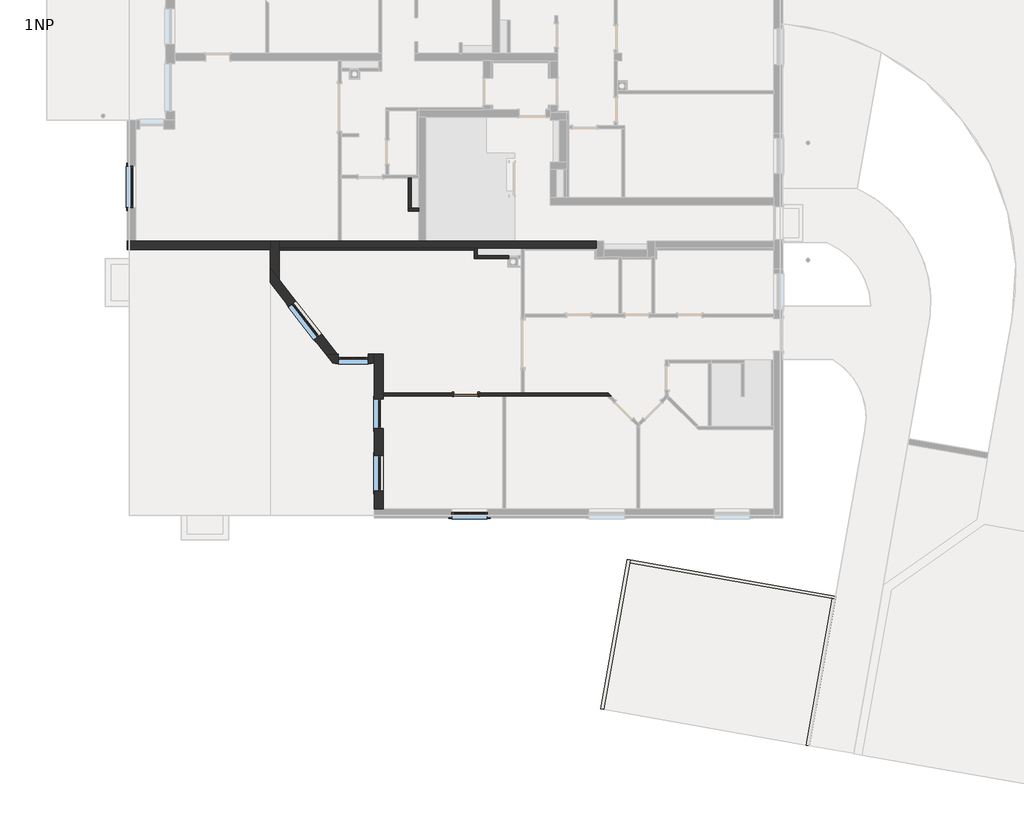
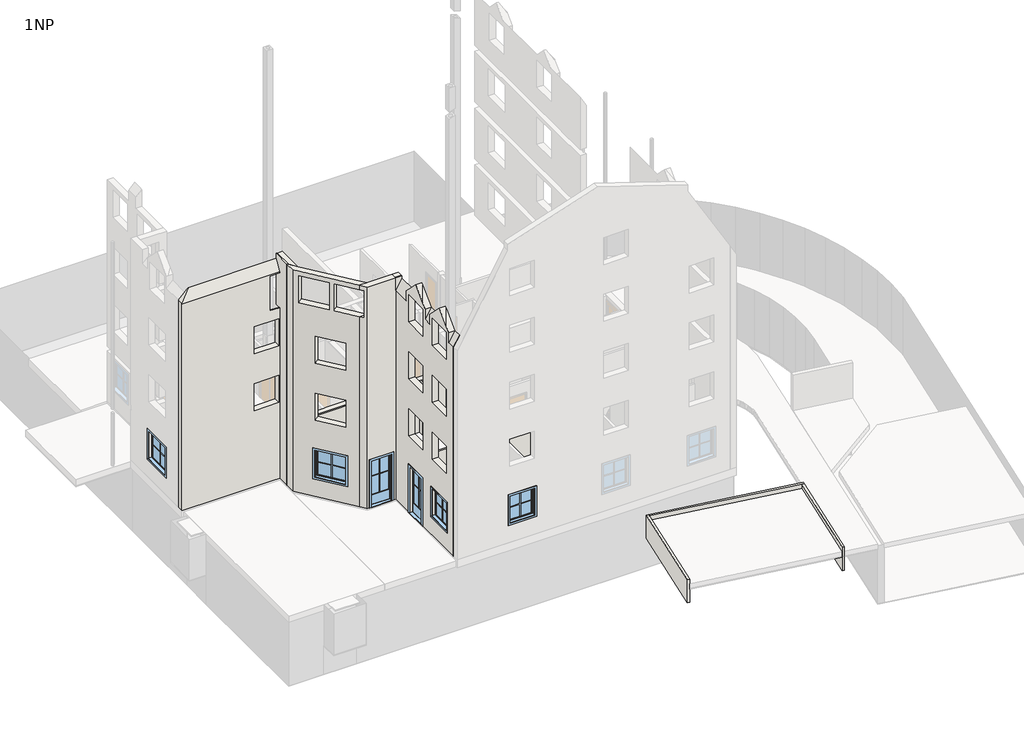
# One storey, part 1 of 7: 15 walls, 6 windows, 1 door.
"""IFC4 building model written with IfcOpenShell, lengths in millimetres."""

from ifc_helpers import new_model, si_unit, frame, origin, origin_with_axes, place, context, project, spatial, polyline, outline, extrude, faceted_brep, transform, mapped, element, save
from components import sd_800x2000_80f4ff25, standard_window_with_mullions_d3525f46, standard_window_with_mullions_80486b60, window_2_30278724

model = new_model("IFC4")

# Units and contexts
model_context = context("Model", 3, world=origin())
ifc_project = project(units=[si_unit("LENGTHUNIT", "METRE", prefix="MILLI")], contexts=[model_context])

# Site, building, storey
site = spatial("IfcSite", under=ifc_project)
building = spatial("IfcBuilding", under=site)
storey = spatial("IfcBuildingStorey", under=building, Name="1NP", Elevation=0.0)

# Door
placement = place(None, origin())
sd_800x2000_shape = sd_800x2000_80f4ff25(model_context)
element("IfcDoor", 1, ObjectType="JednokridlePlne : SD 800x2000", at=placement, inside=storey, context=model_context, shape_type="MappedRepresentation", body=[
    mapped(sd_800x2000_shape, transform((-1270.9247504, -6982.3709459, 0.0), x_axis=(-1.0, 0.0, 0.0), y_axis=(0.0, -1.0, 0.0), z_axis=(0.0, 0.0, 1.0))),
])

# Walls
element("IfcWall", 2, ObjectType="Exterior - 250+50mm", at=placement, inside=storey, context=model_context, shape_type="Brep", body=[
    faceted_brep([(-4037.1962165, -5932.3709459, 11480.0), (-4037.1962165, -5932.3709459, 11351.5524478), (-4037.1962165, -6832.3709452, 11351.5524478), (-4037.1962165, -6833.9233929, 11351.5524478), (-4037.1962165, -7553.9233929, 12071.5524478), (-4037.1962165, -7632.3709452, 12150.0), (-4037.1962165, -7710.8184974, 12071.5524478), (-4037.1962165, -8430.8184974, 11351.5524478), (-4037.1962165, -8432.3709452, 11351.5524478), (-4037.1962165, -8832.3709452, 11351.5524478), (-4037.1962165, -8833.9233929, 11351.5524478), (-4037.1962165, -9553.9233929, 12071.5524478), (-4037.1962165, -9632.3709452, 12150.0), (-4037.1962165, -9710.8184974, 12071.5524478), (-4037.1962165, -10430.8184974, 11351.5524478), (-4037.1962165, -10432.3709452, 11351.5524478), (-4037.1962165, -10832.3709459, 11351.5524478), (-4037.1962165, -10832.3709459, 8850.0), (-4037.1962165, -6782.3709459, 8850.0), (-4037.1962165, -6682.3709459, 8850.0), (-4037.1962165, -5632.3709459, 8850.0), (-4037.1962165, -5632.3709459, 11480.0), (-4037.1962165, -5882.3709459, 11480.0), (-4037.1962165, -10232.3709452, 9850.0), (-4037.1962165, -10232.3709452, 11250.0), (-4037.1962165, -9032.3709452, 11250.0), (-4037.1962165, -9032.3709452, 9850.0), (-4037.1962165, -8232.3709452, 9850.0), (-4037.1962165, -8232.3709452, 11250.0), (-4037.1962165, -7032.3709452, 11250.0), (-4037.1962165, -7032.3709452, 9850.0), (-4037.1962165, -7132.3709422, 2400.0), (-4037.1962165, -7132.3709422, 0.0), (-4037.1962165, -7032.3709459, 0.0), (-4037.1962165, -6932.3709459, 0.0), (-4037.1962165, -5632.3709459, 0.0), (-4037.1962165, -5632.3709459, 2630.0), (-4037.1962165, -6932.3709459, 2630.0), (-4037.1962165, -7032.3709459, 2630.0), (-4037.1962165, -10832.3709459, 2630.0), (-4037.1962165, -10832.3709459, 0.0), (-4037.1962165, -8132.3709422, 0.0), (-4037.1962165, -8132.3709422, 2400.0), (-4037.1962165, -10232.3709452, 1000.0), (-4037.1962165, -10232.3709452, 2400.0), (-4037.1962165, -9032.3709452, 2400.0), (-4037.1962165, -9032.3709452, 1000.0), (-4037.1962165, -10832.3709459, 2950.0), (-4037.1962165, -5732.3709459, 2950.0), (-4037.1962165, -5632.3709459, 2950.0), (-4037.1962165, -5632.3709459, 5580.0), (-4037.1962165, -5732.3709459, 5580.0), (-4037.1962165, -10832.3709459, 5580.0), (-4037.1962165, -10232.3709452, 3950.0), (-4037.1962165, -10232.3709452, 5350.0), (-4037.1962165, -9032.3709452, 5350.0), (-4037.1962165, -9032.3709452, 3950.0), (-4037.1962165, -8232.3709452, 3950.0), (-4037.1962165, -8232.3709452, 5350.0), (-4037.1962165, -7032.3709452, 5350.0), (-4037.1962165, -7032.3709452, 3950.0), (-4037.1962165, -10832.3709459, 5900.0), (-4037.1962165, -5732.3709459, 5900.0), (-4037.1962165, -5632.3709459, 5900.0), (-4037.1962165, -5632.3709459, 8530.0), (-4037.1962165, -5732.3709459, 8530.0), (-4037.1962165, -10832.3709459, 8530.0), (-4037.1962165, -10232.3709452, 6900.0), (-4037.1962165, -10232.3709452, 8300.0), (-4037.1962165, -9032.3709452, 8300.0), (-4037.1962165, -9032.3709452, 6900.0), (-4037.1962165, -8232.3709452, 6900.0), (-4037.1962165, -8232.3709452, 8300.0), (-4037.1962165, -7032.3709452, 8300.0), (-4037.1962165, -7032.3709452, 6900.0), (-4337.1962165, -10832.3709459, 0.0), (-4337.1962165, -10832.3709459, 10831.9372055), (-4337.1962165, -10432.3709452, 10831.9372055), (-4337.1962165, -10432.3709452, 11350.0), (-4337.1962165, -10230.4337397, 11551.9372055), (-4337.1962165, -9632.3709452, 12150.0), (-4337.1962165, -9034.3081507, 11551.9372055), (-4337.1962165, -8832.3709452, 11350.0), (-4337.1962165, -8832.3709452, 10831.9372055), (-4337.1962165, -8432.3709452, 10831.9372055), (-4337.1962165, -8432.3709452, 11350.0), (-4337.1962165, -8230.4337397, 11551.9372055), (-4337.1962165, -7632.3709452, 12150.0), (-4337.1962165, -7034.3081507, 11551.9372055), (-4337.1962165, -6832.3709452, 11350.0), (-4337.1962165, -6832.3709452, 10831.9372055), (-4337.1962165, -5932.3709459, 10831.9372055), (-4337.1962165, -5932.3709459, 11480.0), (-4337.1962165, -5882.3709459, 11480.0), (-4337.1962165, -5632.3709459, 11480.0), (-4337.1962165, -5632.3709459, 8850.0), (-4337.1962165, -5882.3709459, 8850.0), (-4337.1962165, -5882.3709459, 8530.0), (-4337.1962165, -5632.3709459, 8530.0), (-4337.1962165, -5632.3709459, 5900.0), (-4337.1962165, -5882.3709459, 5900.0), (-4337.1962165, -5882.3709459, 5580.0), (-4337.1962165, -5632.3709459, 5580.0), (-4337.1962165, -5632.3709459, 2950.0), (-4337.1962165, -5882.3709459, 2950.0), (-4337.1962165, -5882.3709459, 2630.0), (-4337.1962165, -5632.3709459, 2630.0), (-4337.1962165, -5632.3709459, 0.0), (-4337.1962165, -5932.3709459, 0.0), (-4337.1962165, -7132.3709422, 0.0), (-4337.1962165, -7132.3709422, 2400.0), (-4337.1962165, -8132.3709422, 2400.0), (-4337.1962165, -8132.3709422, 0.0), (-4337.1962165, -10232.3709452, 2400.0), (-4337.1962165, -10232.3709452, 1000.0), (-4337.1962165, -9032.3709452, 1000.0), (-4337.1962165, -9032.3709452, 2400.0), (-4337.1962165, -10232.3709452, 5350.0), (-4337.1962165, -10232.3709452, 3950.0), (-4337.1962165, -9032.3709452, 3950.0), (-4337.1962165, -9032.3709452, 5350.0), (-4337.1962165, -8232.3709452, 5350.0), (-4337.1962165, -8232.3709452, 3950.0), (-4337.1962165, -7032.3709452, 3950.0), (-4337.1962165, -7032.3709452, 5350.0), (-4337.1962165, -10232.3709452, 8300.0), (-4337.1962165, -10232.3709452, 6900.0), (-4337.1962165, -9032.3709452, 6900.0), (-4337.1962165, -9032.3709452, 8300.0), (-4337.1962165, -8232.3709452, 8300.0), (-4337.1962165, -8232.3709452, 6900.0), (-4337.1962165, -7032.3709452, 6900.0), (-4337.1962165, -7032.3709452, 8300.0), (-4337.1962165, -10232.3709452, 11250.0), (-4337.1962165, -10232.3709452, 9850.0), (-4337.1962165, -9032.3709452, 9850.0), (-4337.1962165, -9032.3709452, 11250.0), (-4337.1962165, -8232.3709452, 11250.0), (-4337.1962165, -8232.3709452, 9850.0), (-4337.1962165, -7032.3709452, 9850.0), (-4337.1962165, -7032.3709452, 11250.0), (-4287.1962165, -10832.3709459, 2630.0), (-4287.1962165, -10832.3709459, 2950.0), (-4287.1962165, -10832.3709459, 5580.0), (-4287.1962165, -10832.3709459, 5900.0), (-4287.1962165, -10832.3709459, 8530.0), (-4287.1962165, -10832.3709459, 8850.0), (-4038.0925227, -10432.3709452, 11350.0), (-4038.0925227, -8832.3709452, 11350.0), (-4038.0925227, -8432.3709452, 11350.0), (-4038.0925227, -6832.3709452, 11350.0), (-4287.1962165, -5882.3709459, 2630.0), (-4287.1962165, -5882.3709459, 2950.0), (-4287.1962165, -5882.3709459, 5580.0), (-4287.1962165, -5882.3709459, 5900.0), (-4287.1962165, -5882.3709459, 8530.0), (-4287.1962165, -5882.3709459, 8850.0)], [[[0, 1, 2, 3, 4, 5, 6, 7, 8, 9, 10, 11, 12, 13, 14, 15, 16, 17, 18, 19, 20, 21, 22], [23, 24, 25, 26], [27, 28, 29, 30]], [[31, 32, 33, 34, 35, 36, 37, 38, 39, 40, 41, 42], [43, 44, 45, 46]], [[47, 48, 49, 50, 51, 52], [53, 54, 55, 56], [57, 58, 59, 60]], [[61, 62, 63, 64, 65, 66], [67, 68, 69, 70], [71, 72, 73, 74]], [[75, 76, 77, 78, 79, 80, 81, 82, 83, 84, 85, 86, 87, 88, 89, 90, 91, 92, 93, 94, 95, 96, 97, 98, 99, 100, 101, 102, 103, 104, 105, 106, 107, 108, 109, 110, 111, 112], [113, 114, 115, 116], [117, 118, 119, 120], [121, 122, 123, 124], [125, 126, 127, 128], [129, 130, 131, 132], [133, 134, 135, 136], [137, 138, 139, 140]], [[107, 35, 34, 33, 32, 109, 108]], [[40, 75, 112, 41]], [[35, 107, 106, 36]], [[94, 21, 20, 95]], [[49, 103, 102, 50]], [[63, 99, 98, 64]], [[16, 76, 75, 40, 39, 141, 142, 47, 52, 143, 144, 61, 66, 145, 146, 17]], [[1, 0, 92, 91]], [[78, 77, 147]], [[83, 82, 148]], [[85, 84, 149]], [[90, 89, 150]], [[92, 0, 22, 93]], [[2, 1, 91, 90, 150, 3]], [[82, 81, 11, 10, 148]], [[79, 78, 147, 14, 13]], [[89, 88, 4, 3, 150]], [[86, 85, 149, 7, 6]], [[84, 83, 148, 10, 9, 8, 7, 149]], [[76, 16, 15, 14, 147, 77]], [[6, 5, 87, 86]], [[5, 4, 88, 87]], [[13, 12, 80, 79]], [[12, 11, 81, 80]], [[22, 21, 94, 93]], [[44, 43, 114, 113]], [[45, 44, 113, 116]], [[46, 45, 116, 115]], [[43, 46, 115, 114]], [[110, 109, 32, 31]], [[111, 110, 31, 42]], [[112, 111, 42, 41]], [[54, 53, 118, 117]], [[55, 54, 117, 120]], [[56, 55, 120, 119]], [[53, 56, 119, 118]], [[58, 57, 122, 121]], [[59, 58, 121, 124]], [[60, 59, 124, 123]], [[57, 60, 123, 122]], [[68, 67, 126, 125]], [[69, 68, 125, 128]], [[70, 69, 128, 127]], [[67, 70, 127, 126]], [[72, 71, 130, 129]], [[73, 72, 129, 132]], [[74, 73, 132, 131]], [[71, 74, 131, 130]], [[24, 23, 134, 133]], [[25, 24, 133, 136]], [[26, 25, 136, 135]], [[23, 26, 135, 134]], [[28, 27, 138, 137]], [[29, 28, 137, 140]], [[30, 29, 140, 139]], [[27, 30, 139, 138]], [[105, 151, 141, 39, 38, 37, 36, 106]], [[142, 152, 104, 103, 49, 48, 47]], [[151, 152, 142, 141]], [[152, 151, 105, 104]], [[101, 153, 143, 52, 51, 50, 102]], [[144, 154, 100, 99, 63, 62, 61]], [[153, 154, 144, 143]], [[154, 153, 101, 100]], [[97, 155, 145, 66, 65, 64, 98]], [[146, 156, 96, 95, 20, 19, 18, 17]], [[155, 156, 146, 145]], [[156, 155, 97, 96]]]),
])
element("IfcWall", 3, ObjectType="Exterior - 250+50mm", at=placement, inside=storey, context=model_context, shape_type="Brep", body=[
    faceted_brep([(-5550.4710748, -5632.3709459, 2400.0), (-5550.4710748, -5632.3709459, 0.0), (-5590.4710748, -5632.3709459, 0.0), (-5970.5295499, -5632.3709459, 0.0), (-5970.5295499, -5632.3709459, 9850.0), (-5590.4710748, -5632.3709459, 9850.0), (-5590.4710748, -5632.3709459, 11250.0), (-5970.5295499, -5632.3709459, 11250.0), (-5970.5295499, -5632.3709459, 11480.0), (-5907.1864707, -5632.3709459, 11480.0), (-5590.4710748, -5632.3709459, 11480.0), (-4337.1962165, -5632.3709459, 11480.0), (-4337.1962165, -5632.3709459, 8850.0), (-5590.4710748, -5632.3709459, 8850.0), (-5907.1864707, -5632.3709459, 8850.0), (-5907.1864707, -5632.3709459, 8530.0), (-5590.4710748, -5632.3709459, 8530.0), (-4337.1962165, -5632.3709459, 8530.0), (-4337.1962165, -5632.3709459, 5900.0), (-5590.4710748, -5632.3709459, 5900.0), (-5907.1864707, -5632.3709459, 5900.0), (-5907.1864707, -5632.3709459, 5580.0), (-5590.4710748, -5632.3709459, 5580.0), (-4337.1962165, -5632.3709459, 5580.0), (-4337.1962165, -5632.3709459, 2950.0), (-5590.4710748, -5632.3709459, 2950.0), (-5907.1864707, -5632.3709459, 2950.0), (-5907.1864707, -5632.3709459, 2630.0), (-5590.4710748, -5632.3709459, 2630.0), (-4337.1962165, -5632.3709459, 2630.0), (-4337.1962165, -5632.3709459, 0.0), (-4550.4710748, -5632.3709459, 0.0), (-4550.4710748, -5632.3709459, 2400.0), (-4337.1962165, -5932.3709459, 11480.0), (-5737.1962165, -5932.3709459, 11480.0), (-5737.1962165, -5932.3709459, 0.0), (-5550.4710748, -5932.3709459, 0.0), (-5550.4710748, -5932.3709459, 2400.0), (-4550.4710748, -5932.3709459, 2400.0), (-4550.4710748, -5932.3709459, 0.0), (-4337.1962165, -5932.3709459, 0.0), (-4337.1962165, -5932.3709459, 10831.9372055), (-4337.1962165, -5882.3709459, 11480.0), (-5827.27674, -5816.55313, 11250.0), (-5827.27674, -5816.55313, 9850.0), (-4337.1962165, -5882.3709459, 2630.0), (-4337.1962165, -5882.3709459, 2950.0), (-4337.1962165, -5882.3709459, 5580.0), (-4337.1962165, -5882.3709459, 5900.0), (-4337.1962165, -5882.3709459, 8530.0), (-4337.1962165, -5882.3709459, 8850.0), (-5712.7420262, -5882.3709459, 2630.0), (-5712.7420262, -5882.3709459, 2950.0), (-5712.7420262, -5882.3709459, 5580.0), (-5712.7420262, -5882.3709459, 5900.0), (-5712.7420262, -5882.3709459, 8530.0), (-5712.7420262, -5882.3709459, 8850.0)], [[[0, 1, 2, 3, 4, 5, 6, 7, 8, 9, 10, 11, 12, 13, 14, 15, 16, 17, 18, 19, 20, 21, 22, 23, 24, 25, 26, 27, 28, 29, 30, 31, 32]], [[33, 34, 35, 36, 37, 38, 39, 40, 41]], [[35, 3, 2, 1, 36]], [[30, 40, 39, 31]], [[34, 33, 42, 11, 10, 9, 8]], [[3, 35, 34, 8, 7, 43, 44, 4]], [[33, 41, 40, 30, 29, 45, 46, 24, 23, 47, 48, 18, 17, 49, 50, 12, 11, 42]], [[37, 36, 1, 0]], [[38, 37, 0, 32]], [[39, 38, 32, 31]], [[5, 44, 43, 6]], [[6, 43, 7]], [[44, 5, 4]], [[27, 51, 45, 29, 28]], [[46, 52, 26, 25, 24]], [[51, 52, 46, 45]], [[52, 51, 27, 26]], [[21, 53, 47, 23, 22]], [[48, 54, 20, 19, 18]], [[53, 54, 48, 47]], [[54, 53, 21, 20]], [[15, 55, 49, 17, 16]], [[50, 56, 14, 13, 12]], [[55, 56, 50, 49]], [[56, 55, 15, 14]]]),
])
element("IfcWall", 4, ObjectType="Exterior - 250+50mm", at=placement, inside=storey, context=model_context, shape_type="Brep", body=[
    faceted_brep([(-5590.4710748, -5632.3709459, 0.0), (-7537.1962165, -3129.4386209, 0.0), (-7837.1962165, -2743.7243352, 0.0), (-7837.1962165, -2743.7243352, 11480.0), (-7787.1962165, -2808.0100494, 11480.0), (-7537.1962165, -3129.4386209, 11480.0), (-5590.4710748, -5632.3709459, 11480.0), (-5590.4710748, -5632.3709459, 11250.0), (-6449.9879338, -4527.2778416, 11250.0), (-6449.9879338, -4527.2778416, 9850.0), (-5590.4710748, -5632.3709459, 9850.0), (-5590.4710748, -5632.3709459, 8850.0), (-7537.1962165, -3129.4386209, 8850.0), (-7787.1962165, -2808.0100494, 8850.0), (-7787.1962165, -2808.0100494, 8530.0), (-7537.1962165, -3129.4386209, 8530.0), (-5590.4710748, -5632.3709459, 8530.0), (-5590.4710748, -5632.3709459, 5900.0), (-7537.1962165, -3129.4386209, 5900.0), (-7787.1962165, -2808.0100494, 5900.0), (-7787.1962165, -2808.0100494, 5580.0), (-7537.1962165, -3129.4386209, 5580.0), (-5590.4710748, -5632.3709459, 5580.0), (-5590.4710748, -5632.3709459, 2950.0), (-7537.1962165, -3129.4386209, 2950.0), (-7787.1962165, -2808.0100494, 2950.0), (-7787.1962165, -2808.0100494, 2630.0), (-7537.1962165, -3129.4386209, 2630.0), (-5590.4710748, -5632.3709459, 2630.0), (-6111.3619969, -4962.6540461, 1000.0), (-6111.3619969, -4962.6540461, 2400.0), (-6970.8788558, -3857.5609418, 2400.0), (-6970.8788558, -3857.5609418, 1000.0), (-6111.3619969, -4962.6540461, 3950.0), (-6111.3619969, -4962.6540461, 5350.0), (-6970.8788558, -3857.5609418, 5350.0), (-6970.8788558, -3857.5609418, 3950.0), (-6111.3619969, -4962.6540461, 6900.0), (-6111.3619969, -4962.6540461, 8300.0), (-6970.8788558, -3857.5609418, 8300.0), (-6970.8788558, -3857.5609418, 6900.0), (-6576.7507807, -4364.2970383, 9850.0), (-6576.7507807, -4364.2970383, 11250.0), (-7436.2676396, -3259.203934, 11250.0), (-7436.2676396, -3259.203934, 9850.0), (-7837.1962165, -3232.3709459, 0.0), (-5970.5295499, -5632.3709459, 0.0), (-5970.5295499, -5632.3709459, 9850.0), (-6686.793599, -4711.4600256, 9850.0), (-6686.793599, -4711.4600256, 11250.0), (-5970.5295499, -5632.3709459, 11250.0), (-5970.5295499, -5632.3709459, 11480.0), (-7837.1962165, -3232.3709459, 11480.0), (-6348.1676621, -5146.8362301, 2400.0), (-6348.1676621, -5146.8362301, 1000.0), (-7207.6845211, -4041.7431258, 1000.0), (-7207.6845211, -4041.7431258, 2400.0), (-6348.1676621, -5146.8362301, 5350.0), (-6348.1676621, -5146.8362301, 3950.0), (-7207.6845211, -4041.7431258, 3950.0), (-7207.6845211, -4041.7431258, 5350.0), (-6348.1676621, -5146.8362301, 8300.0), (-6348.1676621, -5146.8362301, 6900.0), (-7207.6845211, -4041.7431258, 6900.0), (-7207.6845211, -4041.7431258, 8300.0), (-6813.5564459, -4548.4792224, 11250.0), (-6813.5564459, -4548.4792224, 9850.0), (-7673.0733049, -3443.3861181, 9850.0), (-7673.0733049, -3443.3861181, 11250.0), (-5907.1864707, -5632.3709459, 11480.0), (-5907.1864707, -5632.3709459, 2630.0), (-5907.1864707, -5632.3709459, 2950.0), (-5907.1864707, -5632.3709459, 5580.0), (-5907.1864707, -5632.3709459, 5900.0), (-5907.1864707, -5632.3709459, 8530.0), (-5907.1864707, -5632.3709459, 8850.0), (-7787.1962165, -3215.2155584, 2630.0), (-7787.1962165, -3215.2155584, 2950.0), (-7787.1962165, -3215.2155584, 5580.0), (-7787.1962165, -3215.2155584, 5900.0), (-7787.1962165, -3215.2155584, 8530.0), (-7787.1962165, -3215.2155584, 8850.0)], [[[0, 1, 2, 3, 4, 5, 6, 7, 8, 9, 10, 11, 12, 13, 14, 15, 16, 17, 18, 19, 20, 21, 22, 23, 24, 25, 26, 27, 28], [29, 30, 31, 32], [33, 34, 35, 36], [37, 38, 39, 40], [41, 42, 43, 44]], [[45, 46, 47, 48, 49, 50, 51, 52], [53, 54, 55, 56], [57, 58, 59, 60], [61, 62, 63, 64], [65, 66, 67, 68]], [[2, 1, 0, 46, 45]], [[52, 51, 69, 6, 5, 4, 3]], [[3, 2, 45, 52]], [[46, 0, 28, 70, 71, 23, 22, 72, 73, 17, 16, 74, 75, 11, 10, 47]], [[7, 6, 69, 51, 50]], [[30, 29, 54, 53]], [[31, 30, 53, 56]], [[32, 31, 56, 55]], [[29, 32, 55, 54]], [[34, 33, 58, 57]], [[35, 34, 57, 60]], [[36, 35, 60, 59]], [[33, 36, 59, 58]], [[38, 37, 62, 61]], [[39, 38, 61, 64]], [[40, 39, 64, 63]], [[37, 40, 63, 62]], [[42, 41, 66, 65]], [[43, 42, 65, 68]], [[44, 43, 68, 67]], [[41, 44, 67, 66]], [[49, 8, 7, 50]], [[8, 49, 48, 9]], [[9, 48, 47, 10]], [[26, 76, 70, 28, 27]], [[71, 77, 25, 24, 23]], [[76, 77, 71, 70]], [[77, 76, 26, 25]], [[20, 78, 72, 22, 21]], [[73, 79, 19, 18, 17]], [[78, 79, 73, 72]], [[79, 78, 20, 19]], [[14, 80, 74, 16, 15]], [[75, 81, 13, 12, 11]], [[80, 81, 75, 74]], [[81, 80, 14, 13]]]),
])
element("IfcWall", 5, ObjectType="Exterior - 250+50mm", at=placement, inside=storey, context=model_context, shape_type="Brep", body=[
    faceted_brep([(-7537.1962165, -3129.4386209, 0.0), (-7537.1962165, -2147.3709459, 0.0), (-7537.1962165, -2082.3709459, 0.0), (-7537.1962165, -1832.3709459, 0.0), (-7537.1962165, -1832.3709459, 2630.0), (-7537.1962165, -2082.3709459, 2630.0), (-7537.1962165, -2147.3709459, 2630.0), (-7537.1962165, -3129.4386209, 2630.0), (-7537.1962165, -1832.3709459, 11480.0), (-7537.1962165, -2082.3709459, 11480.0), (-7537.1962165, -2147.3709459, 11480.0), (-7537.1962165, -3129.4386209, 11480.0), (-7537.1962165, -3129.4386209, 8850.0), (-7537.1962165, -2147.3709459, 8850.0), (-7537.1962165, -2082.3709459, 8850.0), (-7537.1962165, -1832.3709459, 8850.0), (-7537.1962165, -3129.4386209, 2950.0), (-7537.1962165, -2147.3709459, 2950.0), (-7537.1962165, -2082.3709459, 2950.0), (-7537.1962165, -1832.3709459, 2950.0), (-7537.1962165, -1832.3709459, 5580.0), (-7537.1962165, -2082.3709459, 5580.0), (-7537.1962165, -2147.3709459, 5580.0), (-7537.1962165, -3129.4386209, 5580.0), (-7537.1962165, -3129.4386209, 5900.0), (-7537.1962165, -2147.3709459, 5900.0), (-7537.1962165, -2082.3709459, 5900.0), (-7537.1962165, -1832.3709459, 5900.0), (-7537.1962165, -1832.3709459, 8530.0), (-7537.1962165, -2082.3709459, 8530.0), (-7537.1962165, -2147.3709459, 8530.0), (-7537.1962165, -3129.4386209, 8530.0), (-7837.1962165, -1832.3709459, 0.0), (-7837.1962165, -2132.3709459, 0.0), (-7837.1962165, -2743.7243352, 0.0), (-7837.1962165, -2743.7243352, 11480.0), (-7837.1962165, -1832.3709459, 11480.0), (-7837.1962165, -1832.3709459, 11223.7295446), (-7837.1962165, -1832.3709459, 10650.0), (-7837.1962165, -1832.3709459, 8850.0), (-7837.1962165, -2082.3709459, 8850.0), (-7837.1962165, -2082.3709459, 8530.0), (-7837.1962165, -1832.3709459, 8530.0), (-7837.1962165, -1832.3709459, 5900.0), (-7837.1962165, -2082.3709459, 5900.0), (-7837.1962165, -2082.3709459, 5580.0), (-7837.1962165, -1832.3709459, 5580.0), (-7837.1962165, -1832.3709459, 2950.0), (-7837.1962165, -2082.3709459, 2950.0), (-7837.1962165, -2082.3709459, 2630.0), (-7837.1962165, -1832.3709459, 2630.0), (-7787.1962165, -1832.3709459, 11480.0), (-7787.1962165, -2808.0100494, 2630.0), (-7787.1962165, -2808.0100494, 2950.0), (-7787.1962165, -2808.0100494, 5580.0), (-7787.1962165, -2808.0100494, 5900.0), (-7787.1962165, -2808.0100494, 8530.0), (-7787.1962165, -2808.0100494, 8850.0), (-7787.1962165, -2808.0100494, 11480.0), (-7787.1962165, -2082.3709459, 2630.0), (-7787.1962165, -2082.3709459, 2950.0), (-7787.1962165, -2082.3709459, 5580.0), (-7787.1962165, -2082.3709459, 5900.0), (-7787.1962165, -2082.3709459, 8530.0), (-7787.1962165, -2082.3709459, 8850.0)], [[[0, 1, 2, 3, 4, 5, 6, 7]], [[8, 9, 10, 11, 12, 13, 14, 15]], [[16, 17, 18, 19, 20, 21, 22, 23]], [[24, 25, 26, 27, 28, 29, 30, 31]], [[32, 33, 34, 35, 36, 37, 38, 39, 40, 41, 42, 43, 44, 45, 46, 47, 48, 49, 50]], [[3, 2, 1, 0, 34, 33, 32]], [[3, 32, 50, 4]], [[51, 8, 15, 39, 38, 37, 36]], [[19, 47, 46, 20]], [[27, 43, 42, 28]], [[35, 34, 0, 7, 52, 53, 16, 23, 54, 55, 24, 31, 56, 57, 12, 11, 58]], [[36, 35, 58, 51]], [[11, 10, 9, 8, 51, 58]], [[49, 59, 52, 7, 6, 5, 4, 50]], [[53, 60, 48, 47, 19, 18, 17, 16]], [[59, 60, 53, 52]], [[60, 59, 49, 48]], [[45, 61, 54, 23, 22, 21, 20, 46]], [[55, 62, 44, 43, 27, 26, 25, 24]], [[61, 62, 55, 54]], [[62, 61, 45, 44]], [[41, 63, 56, 31, 30, 29, 28, 42]], [[57, 64, 40, 39, 15, 14, 13, 12]], [[63, 64, 57, 56]], [[64, 63, 41, 40]]]),
])
element("IfcWall", 6, ObjectType="Exterior - 250+50mm", at=placement, inside=storey, context=model_context, shape_type="Brep", body=[
    faceted_brep([(-7837.1962165, -1832.3709459, 0.0), (-12337.1962165, -1832.3709459, 0.0), (-12637.1962165, -1832.3709459, 0.0), (-12637.1962165, -1832.3709459, 10750.0), (-12337.1962165, -1832.3709459, 11050.0), (-12163.4666719, -1832.3709459, 11223.7295446), (-7837.1962165, -1832.3709459, 11223.7295446), (-7837.1962165, -1832.3709459, 10650.0), (-8337.1962165, -1832.3709459, 10650.0), (-8337.1962165, -1832.3709459, 8850.0), (-12337.1962165, -1832.3709459, 8850.0), (-12587.1962165, -1832.3709459, 8850.0), (-12587.1962165, -1832.3709459, 8530.0), (-12337.1962165, -1832.3709459, 8530.0), (-7837.1962165, -1832.3709459, 8530.0), (-7837.1962165, -1832.3709459, 5900.0), (-12337.1962165, -1832.3709459, 5900.0), (-12587.1962165, -1832.3709459, 5900.0), (-12587.1962165, -1832.3709459, 5580.0), (-12337.1962165, -1832.3709459, 5580.0), (-9337.1962165, -1832.3709459, 5580.0), (-9237.1962165, -1832.3709459, 5580.0), (-7837.1962165, -1832.3709459, 5580.0), (-7837.1962165, -1832.3709459, 2950.0), (-9237.1962165, -1832.3709459, 2950.0), (-9337.1962165, -1832.3709459, 2950.0), (-12337.1962165, -1832.3709459, 2950.0), (-12587.1962165, -1832.3709459, 2950.0), (-12587.1962165, -1832.3709459, 2630.0), (-12337.1962165, -1832.3709459, 2630.0), (-7837.1962165, -1832.3709459, 2630.0), (-7887.196218, -1832.3709459, 3950.0), (-7887.196218, -1832.3709459, 5350.0), (-9087.196218, -1832.3709459, 5350.0), (-9087.196218, -1832.3709459, 3950.0), (-7887.196218, -1832.3709459, 6900.0), (-7887.196218, -1832.3709459, 8300.0), (-9087.196218, -1832.3709459, 8300.0), (-9087.196218, -1832.3709459, 6900.0), (-12637.1962165, -2132.3709459, 0.0), (-7837.1962165, -2132.3709459, 0.0), (-7837.1962165, -2132.3709459, 8850.0), (-8337.1962165, -2132.3709459, 8850.0), (-8337.1962165, -2132.3709459, 10650.0), (-7837.1962165, -2132.3709459, 10650.0), (-7837.1962165, -2132.3709459, 10704.1143023), (-12637.1962165, -2132.3709459, 10704.1143023), (-7887.196218, -2132.3709459, 5350.0), (-7887.196218, -2132.3709459, 3950.0), (-9087.196218, -2132.3709459, 3950.0), (-9087.196218, -2132.3709459, 5350.0), (-7887.196218, -2132.3709459, 8300.0), (-7887.196218, -2132.3709459, 6900.0), (-9087.196218, -2132.3709459, 6900.0), (-9087.196218, -2132.3709459, 8300.0), (-12637.1962165, -2105.878826, 10750.0), (-7837.1962165, -2082.3709459, 2630.0), (-7837.1962165, -2082.3709459, 2950.0), (-7837.1962165, -2082.3709459, 5580.0), (-7837.1962165, -2082.3709459, 5900.0), (-7837.1962165, -2082.3709459, 8530.0), (-7837.1962165, -2082.3709459, 8850.0), (-8337.1962165, -2082.3709459, 8850.0), (-12587.1962165, -2082.3709459, 2630.0), (-12587.1962165, -2082.3709459, 2950.0), (-12587.1962165, -2082.3709459, 5580.0), (-12587.1962165, -2082.3709459, 5900.0), (-12587.1962165, -2082.3709459, 8530.0), (-12587.1962165, -2082.3709459, 8850.0)], [[[0, 1, 2, 3, 4, 5, 6, 7, 8, 9, 10, 11, 12, 13, 14, 15, 16, 17, 18, 19, 20, 21, 22, 23, 24, 25, 26, 27, 28, 29, 30], [31, 32, 33, 34], [35, 36, 37, 38]], [[39, 40, 41, 42, 43, 44, 45, 46], [47, 48, 49, 50], [51, 52, 53, 54]], [[2, 1, 0, 40, 39]], [[3, 2, 39, 46, 55]], [[40, 0, 30, 56, 57, 23, 22, 58, 59, 15, 14, 60, 61, 41]], [[6, 45, 44, 7]], [[46, 45, 6, 5, 55]], [[5, 4, 3, 55]], [[32, 31, 48, 47]], [[33, 32, 47, 50]], [[34, 33, 50, 49]], [[31, 34, 49, 48]], [[36, 35, 52, 51]], [[37, 36, 51, 54]], [[38, 37, 54, 53]], [[35, 38, 53, 52]], [[43, 8, 7, 44]], [[8, 43, 42, 62, 9]], [[42, 41, 61, 62]], [[28, 63, 56, 30, 29]], [[57, 64, 27, 26, 25, 24, 23]], [[63, 64, 57, 56]], [[64, 63, 28, 27]], [[18, 65, 58, 22, 21, 20, 19]], [[59, 66, 17, 16, 15]], [[65, 66, 59, 58]], [[66, 65, 18, 17]], [[12, 67, 60, 14, 13]], [[62, 68, 11, 10, 9]], [[67, 68, 62, 61, 60]], [[68, 67, 12, 11]]]),
])
element("IfcWall", 7, ObjectType="Exterior - STB 100mm", at=placement, inside=storey, context=model_context, shape_type="Brep", body=[
    faceted_brep([(3354.3801331, -17565.73644, -1000.0), (4222.6210214, -12641.6976749, -1000.0), (4239.9858392, -12543.2168996, -1000.0), (4239.9858392, -12543.2168996, 200.0), (4222.6210214, -12641.6976749, 200.0), (3354.3801331, -17565.73644, 200.0), (3255.8993578, -17548.3716222, -1000.0), (3255.8993578, -17548.3716222, 200.0), (4141.5050639, -12525.8520818, 200.0), (4141.5050639, -12525.8520818, -1000.0)], [[[0, 1, 2, 3, 4, 5]], [[6, 7, 8, 9]], [[2, 1, 0, 6, 9]], [[5, 4, 3, 8, 7]], [[0, 5, 7, 6]], [[3, 2, 9, 8]]]),
])
element("IfcWall", 8, ObjectType="Exterior - STB 100mm", at=placement, inside=storey, context=model_context, shape_type="Brep", body=[
    faceted_brep([(4222.6210214, -12641.6976749, -1000.0), (11017.7185291, -13839.856702, -1000.0), (11116.1993044, -13857.2215198, -1000.0), (11116.1993044, -13857.2215198, 200.0), (11017.7185291, -13839.856702, 200.0), (4222.6210214, -12641.6976749, 200.0), (4239.9858392, -12543.2168996, -1000.0), (4239.9858392, -12543.2168996, 200.0), (11133.5626024, -13758.7404765, 200.0), (11133.5626024, -13758.7404765, -1000.0)], [[[0, 1, 2, 3, 4, 5]], [[6, 7, 8, 9]], [[2, 1, 0, 6, 9]], [[5, 4, 3, 8, 7]], [[3, 2, 9, 8]], [[0, 5, 7, 6]]]),
])
element("IfcWall", 9, ObjectType="Exterior - STB 100mm", at=placement, inside=storey, context=model_context, shape_type="SweptSolid", body=[
    extrude(outline(polyline([(10149.5536288, -18763.9088659), (11017.7185291, -13839.856702), (11116.1993044, -13857.2215198), (10248.0346721, -18781.2721639), (10149.5536288, -18763.9088659)])), frame((0.0, 0.0, -1000.0), z_axis=(0.0, 0.0, 1.0), x_axis=(1.0, 0.0, 0.0)), (0.0, 0.0, 1.0), 1200.0),
])
element("IfcWall", 10, ObjectType="Interior - 100mm", at=placement, inside=storey, context=model_context, shape_type="SweptSolid", body=[
    extrude(outline(polyline([(-3207.1962165, -732.3709459), (-3207.1962165, 267.6290541), (-3107.1962165, 267.6290541), (-3107.1962165, -732.3709459), (-3207.1962165, -732.3709459)])), origin_with_axes(), (0.0, 0.0, 1.0), 2630.0),
])
element("IfcWall", 11, ObjectType="Interior - 100mm", at=placement, inside=storey, context=model_context, shape_type="Brep", body=[
    faceted_brep([(-3207.1962165, -832.3709459, 0.0), (-2857.1962165, -832.3709459, 0.0), (-2857.1962165, -832.3709459, 2630.0), (-3207.1962165, -832.3709459, 2630.0), (-3207.1962165, -732.3709459, 0.0), (-3207.1962165, -732.3709459, 2630.0), (-3107.1962165, -732.3709459, 2630.0), (-2857.1962165, -732.3709459, 2630.0), (-2857.1962165, -732.3709459, 0.0), (-3107.1962165, -732.3709459, 0.0)], [[[0, 1, 2, 3]], [[4, 5, 6, 7, 8, 9]], [[1, 0, 4, 9, 8]], [[0, 3, 5, 4]], [[2, 1, 8, 7]], [[3, 2, 7, 6, 5]]]),
])
element("IfcWall", 12, ObjectType="Interior - 100mm", at=placement, inside=storey, context=model_context, shape_type="Brep", body=[
    faceted_brep([(-986.4381272, -2082.3709459, 0.0), (-986.4381272, -2147.3709459, 0.0), (-986.4381272, -2432.3709459, 0.0), (-986.4381272, -2432.3709459, 2630.0), (-986.4381272, -2147.3709459, 2630.0), (-986.4381272, -2082.3709459, 2630.0), (-886.4381272, -2082.3709459, 0.0), (-886.4381272, -2082.3709459, 2630.0), (-886.4381272, -2332.3709459, 2630.0), (-886.4381272, -2432.3709459, 2630.0), (-886.4381272, -2432.3709459, 0.0), (-886.4381272, -2332.3709459, 0.0)], [[[0, 1, 2, 3, 4, 5]], [[6, 7, 8, 9, 10, 11]], [[2, 1, 0, 6, 11, 10]], [[3, 2, 10, 9]], [[0, 5, 7, 6]], [[5, 4, 3, 9, 8, 7]]]),
])
element("IfcWall", 13, ObjectType="Interior - 100mm", at=placement, inside=storey, context=model_context, shape_type="Brep", body=[
    faceted_brep([(-886.4381272, -2432.3709459, 0.0), (133.5618728, -2432.3709459, 0.0), (163.5618728, -2432.3709459, 0.0), (163.5618728, -2432.3709459, 2630.0), (-886.4381272, -2432.3709459, 2630.0), (-886.4381272, -2332.3709459, 0.0), (-886.4381272, -2332.3709459, 2630.0), (-86.4381272, -2332.3709459, 2630.0), (163.5618728, -2332.3709459, 2630.0), (163.5618728, -2332.3709459, 0.0), (163.5618728, -2382.3709459, 0.0)], [[[0, 1, 2, 3, 4]], [[5, 6, 7, 8, 9]], [[2, 1, 0, 5, 9, 10]], [[3, 2, 10, 9, 8]], [[0, 4, 6, 5]], [[4, 3, 8, 7, 6]]]),
])
element("IfcWall", 14, ObjectType="Interior - 100mm", at=placement, inside=storey, context=model_context, shape_type="Brep", body=[
    faceted_brep([(-4037.1962165, -7032.3709459, 0.0), (-1670.9247504, -7032.3709459, 0.0), (-1670.9247504, -7032.3709459, 2000.0), (-870.9247504, -7032.3709459, 2000.0), (-870.9247504, -7032.3709459, 0.0), (-37.1962165, -7032.3709459, 0.0), (62.8037835, -7032.3709459, 0.0), (3462.8037835, -7032.3709459, 0.0), (3604.2251397, -7032.3709459, 0.0), (3604.2251397, -7032.3709459, 2630.0), (3462.8037835, -7032.3709459, 2630.0), (62.8037835, -7032.3709459, 2630.0), (-37.1962165, -7032.3709459, 2630.0), (-4037.1962165, -7032.3709459, 2630.0), (-1670.9247504, -6932.3709459, 2000.0), (-1670.9247504, -6932.3709459, 0.0), (-4037.1962165, -6932.3709459, 0.0), (-4037.1962165, -6932.3709459, 2630.0), (592.8037835, -6932.3709459, 2630.0), (692.8037835, -6932.3709459, 2630.0), (3504.2251397, -6932.3709459, 2630.0), (3504.2251397, -6932.3709459, 0.0), (692.8037835, -6932.3709459, 0.0), (592.8037835, -6932.3709459, 0.0), (-870.9247504, -6932.3709459, 0.0), (-870.9247504, -6932.3709459, 2000.0)], [[[0, 1, 2, 3, 4, 5, 6, 7, 8, 9, 10, 11, 12, 13]], [[14, 15, 16, 17, 18, 19, 20, 21, 22, 23, 24, 25]], [[16, 15, 1, 0]], [[24, 23, 22, 21, 8, 7, 6, 5, 4]], [[9, 8, 21, 20]], [[0, 13, 17, 16]], [[13, 12, 11, 10, 9, 20, 19, 18, 17]], [[2, 1, 15, 14]], [[3, 2, 14, 25]], [[4, 3, 25, 24]]]),
])
element("IfcWall", 15, ObjectType="Interior - 250mm", at=placement, inside=storey, context=model_context, shape_type="Brep", body=[
    faceted_brep([(-7537.1962165, -2082.3709459, 0.0), (-986.4381272, -2082.3709459, 0.0), (-886.4381272, -2082.3709459, 0.0), (592.8037835, -2082.3709459, 0.0), (692.8037835, -2082.3709459, 0.0), (3112.8037835, -2082.3709459, 0.0), (3112.8037835, -2082.3709459, 2630.0), (692.8037835, -2082.3709459, 2630.0), (592.8037835, -2082.3709459, 2630.0), (-86.4381272, -2082.3709459, 2630.0), (-886.4381272, -2082.3709459, 2630.0), (-986.4381272, -2082.3709459, 2630.0), (-7537.1962165, -2082.3709459, 2630.0), (-7537.1962165, -1832.3709459, 0.0), (-7537.1962165, -1832.3709459, 2630.0), (-5557.1962165, -1832.3709459, 2630.0), (-5457.1962165, -1832.3709459, 2630.0), (-2857.1962165, -1832.3709459, 2630.0), (-2607.1962165, -1832.3709459, 2630.0), (362.8037835, -1832.3709459, 2630.0), (3112.8037835, -1832.3709459, 2630.0), (3112.8037835, -1832.3709459, 0.0), (-2607.1962165, -1832.3709459, 0.0), (-2857.1962165, -1832.3709459, 0.0), (-5457.1962165, -1832.3709459, 0.0), (-5557.1962165, -1832.3709459, 0.0)], [[[0, 1, 2, 3, 4, 5, 6, 7, 8, 9, 10, 11, 12]], [[13, 14, 15, 16, 17, 18, 19, 20, 21, 22, 23, 24, 25]], [[5, 4, 3, 2, 1, 0, 13, 25, 24, 23, 22, 21]], [[0, 12, 14, 13]], [[6, 5, 21, 20]], [[12, 11, 10, 9, 8, 7, 6, 20, 19, 18, 17, 16, 15, 14]]]),
])
element("IfcWall", 16, ObjectType="Interior - 65mm", at=placement, inside=storey, context=model_context, shape_type="SweptSolid", body=[
    extrude(outline(polyline([(-986.4381272, -2147.3709459), (-7537.1962165, -2147.3709459), (-7537.1962165, -2082.3709459), (-986.4381272, -2082.3709459), (-986.4381272, -2147.3709459)])), origin_with_axes(), (0.0, 0.0, 1.0), 2630.0),
])

# Windows
standard_window_with_mullions_shape = standard_window_with_mullions_d3525f46(model_context)
element("IfcWindow", 17, ObjectType="Standard Window with mullions : 1400/1400", at=placement, inside=storey, context=model_context, shape_type="MappedRepresentation", body=[
    mapped(standard_window_with_mullions_shape, transform((-6659.523259, -4502.198586, 0.0), x_axis=(-0.6139406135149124, 0.7893522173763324, 0.0), y_axis=(-0.7893522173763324, -0.6139406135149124, 0.0), z_axis=(0.0, 0.0, 1.0))),
])
element("IfcWindow", 18, ObjectType="Standard Window with mullions : 1400/1400", at=placement, inside=storey, context=model_context, shape_type="MappedRepresentation", body=[
    mapped(standard_window_with_mullions_shape, transform((-12487.1962165, -20.1346317, 0.0), x_axis=(0.0, 1.0, 0.0), y_axis=(-1.0, 0.0, 0.0), z_axis=(0.0, 0.0, 1.0))),
])
standard_window_with_mullions_2_shape = standard_window_with_mullions_80486b60(model_context)
element("IfcWindow", 19, ObjectType="Standard Window with mullions : 1200/1400", at=placement, inside=storey, context=model_context, shape_type="MappedRepresentation", body=[
    mapped(standard_window_with_mullions_2_shape, transform((-1144.1249228, -10982.3709459, 0.0), x_axis=(-1.0, 0.0, 0.0), y_axis=(0.0, -1.0, 0.0), z_axis=(0.0, 0.0, 1.0))),
])
element("IfcWindow", 20, ObjectType="Standard Window with mullions : 1200/1400", at=placement, inside=storey, context=model_context, shape_type="MappedRepresentation", body=[
    mapped(standard_window_with_mullions_2_shape, transform((-4187.1962165, -9632.3709452, 0.0), x_axis=(0.0, 1.0, 0.0), y_axis=(-1.0, 0.0, 0.0), z_axis=(0.0, 0.0, 1.0))),
])
window_2_shape = window_2_30278724(model_context)
element("IfcWindow", 21, ObjectType="Window 2 : 1000/2400", at=placement, inside=storey, context=model_context, shape_type="MappedRepresentation", body=[
    mapped(window_2_shape, transform((-4187.1962165, -7632.3709422, 0.0), x_axis=(0.0, -1.0, 0.0), y_axis=(1.0, 0.0, 0.0), z_axis=(0.0, 0.0, 1.0))),
])
element("IfcWindow", 22, ObjectType="Window 2 : 1000/2400", at=placement, inside=storey, context=model_context, shape_type="MappedRepresentation", body=[
    mapped(window_2_shape, transform((-5050.4710748, -5782.3709459, 0.0), x_axis=(1.0, 0.0, 0.0), y_axis=(0.0, 1.0, 0.0), z_axis=(0.0, 0.0, 1.0))),
])

save(model, "model.ifc")
